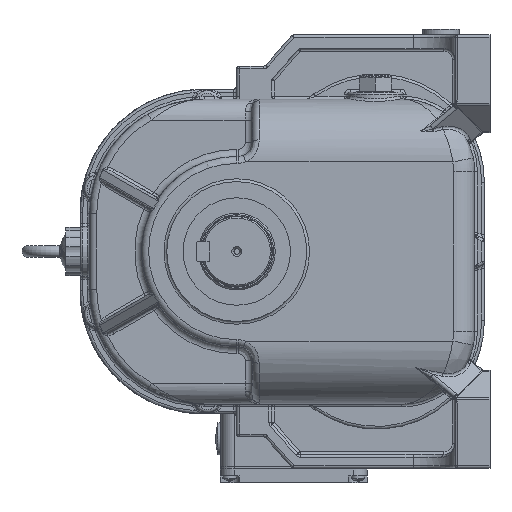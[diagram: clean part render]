
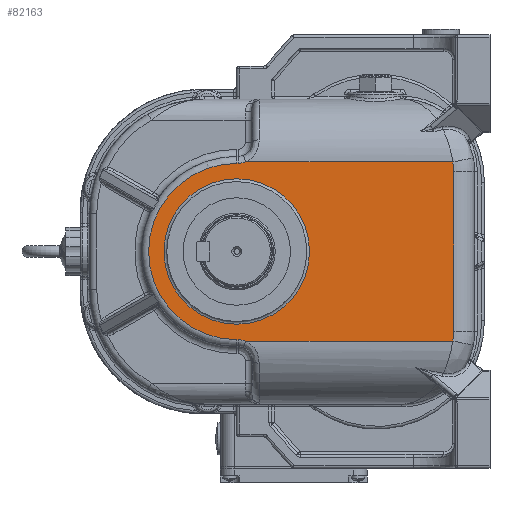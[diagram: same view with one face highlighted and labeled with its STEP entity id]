
A CAD part, left-side view. The second image highlights one B-rep face of the part: STEP entity #82163.
In plain terms, the highlighted planar face has unit normal (-1, 0, 0).
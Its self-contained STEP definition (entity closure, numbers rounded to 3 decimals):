
#7824=FACE_BOUND('',#17557,.T.);
#12537=FACE_OUTER_BOUND('',#17556,.T.);
#17556=EDGE_LOOP('',(#75019,#75020,#75021,#75022,#75023,#75024,#75025,#75026,
#75027,#75028));
#17557=EDGE_LOOP('',(#75029));
#22483=LINE('',#198708,#27319);
#22484=LINE('',#198712,#27320);
#22485=LINE('',#198716,#27321);
#22486=LINE('',#198720,#27322);
#22487=LINE('',#198723,#27323);
#27319=VECTOR('',#113121,10.);
#27320=VECTOR('',#113124,10.);
#27321=VECTOR('',#113127,10.);
#27322=VECTOR('',#113130,10.);
#27323=VECTOR('',#113133,10.);
#31334=CIRCLE('',#90939,52.);
#31335=CIRCLE('',#90941,37.);
#31336=CIRCLE('',#90942,37.);
#31337=CIRCLE('',#90943,15.);
#31338=CIRCLE('',#90944,63.);
#31339=CIRCLE('',#90945,15.);
#38792=VERTEX_POINT('',#198700);
#38793=VERTEX_POINT('',#198704);
#38794=VERTEX_POINT('',#198705);
#38795=VERTEX_POINT('',#198707);
#38796=VERTEX_POINT('',#198709);
#38797=VERTEX_POINT('',#198711);
#38798=VERTEX_POINT('',#198713);
#38799=VERTEX_POINT('',#198715);
#38800=VERTEX_POINT('',#198717);
#38801=VERTEX_POINT('',#198719);
#38802=VERTEX_POINT('',#198721);
#50921=EDGE_CURVE('',#38792,#38792,#31334,.T.);
#50922=EDGE_CURVE('',#38793,#38794,#31335,.T.);
#50923=EDGE_CURVE('',#38795,#38793,#22483,.T.);
#50924=EDGE_CURVE('',#38796,#38795,#31336,.T.);
#50925=EDGE_CURVE('',#38796,#38797,#22484,.T.);
#50926=EDGE_CURVE('',#38798,#38797,#31337,.T.);
#50927=EDGE_CURVE('',#38799,#38798,#22485,.T.);
#50928=EDGE_CURVE('',#38800,#38799,#31338,.T.);
#50929=EDGE_CURVE('',#38801,#38800,#22486,.T.);
#50930=EDGE_CURVE('',#38802,#38801,#31339,.T.);
#50931=EDGE_CURVE('',#38794,#38802,#22487,.T.);
#75019=ORIENTED_EDGE('',*,*,#50922,.F.);
#75020=ORIENTED_EDGE('',*,*,#50923,.F.);
#75021=ORIENTED_EDGE('',*,*,#50924,.F.);
#75022=ORIENTED_EDGE('',*,*,#50925,.T.);
#75023=ORIENTED_EDGE('',*,*,#50926,.F.);
#75024=ORIENTED_EDGE('',*,*,#50927,.F.);
#75025=ORIENTED_EDGE('',*,*,#50928,.F.);
#75026=ORIENTED_EDGE('',*,*,#50929,.F.);
#75027=ORIENTED_EDGE('',*,*,#50930,.F.);
#75028=ORIENTED_EDGE('',*,*,#50931,.F.);
#75029=ORIENTED_EDGE('',*,*,#50921,.F.);
#77416=PLANE('',#90940);
#82163=ADVANCED_FACE('',(#12537,#7824),#77416,.F.);
#90939=AXIS2_PLACEMENT_3D('',#198702,#113115,#113116);
#90940=AXIS2_PLACEMENT_3D('',#198703,#113117,#113118);
#90941=AXIS2_PLACEMENT_3D('',#198706,#113119,#113120);
#90942=AXIS2_PLACEMENT_3D('',#198710,#113122,#113123);
#90943=AXIS2_PLACEMENT_3D('',#198714,#113125,#113126);
#90944=AXIS2_PLACEMENT_3D('',#198718,#113128,#113129);
#90945=AXIS2_PLACEMENT_3D('',#198722,#113131,#113132);
#113115=DIRECTION('center_axis',(-1.,0.,0.));
#113116=DIRECTION('ref_axis',(0.,0.,-1.));
#113117=DIRECTION('center_axis',(1.,0.,0.));
#113118=DIRECTION('ref_axis',(0.,0.,-1.));
#113119=DIRECTION('center_axis',(1.,0.,0.));
#113120=DIRECTION('ref_axis',(0.,-0.998,-0.067));
#113121=DIRECTION('',(0.,0.,-1.));
#113122=DIRECTION('center_axis',(1.,0.,0.));
#113123=DIRECTION('ref_axis',(0.,-0.998,0.067));
#113124=DIRECTION('',(0.,1.,0.));
#113125=DIRECTION('center_axis',(-1.,0.,0.));
#113126=DIRECTION('ref_axis',(0.,0.,-1.));
#113127=DIRECTION('',(0.,-1.,0.));
#113128=DIRECTION('center_axis',(1.,0.,0.));
#113129=DIRECTION('ref_axis',(0.,1.,0.));
#113130=DIRECTION('',(0.,1.,0.));
#113131=DIRECTION('center_axis',(-1.,0.,0.));
#113132=DIRECTION('ref_axis',(0.,0.,1.));
#113133=DIRECTION('',(0.,1.,0.));
#198700=CARTESIAN_POINT('',(-157.,0.,52.));
#198702=CARTESIAN_POINT('Origin',(-157.,0.,0.));
#198703=CARTESIAN_POINT('Origin',(-157.,-40.6,0.));
#198704=CARTESIAN_POINT('',(-157.,-155.,-57.));
#198705=CARTESIAN_POINT('',(-157.,-154.332,-64.));
#198706=CARTESIAN_POINT('Origin',(-157.,-118.,-57.));
#198707=CARTESIAN_POINT('',(-157.,-155.,57.));
#198708=CARTESIAN_POINT('',(-157.,-155.,-28.5));
#198709=CARTESIAN_POINT('',(-157.,-154.332,64.));
#198710=CARTESIAN_POINT('Origin',(-157.,-118.,57.));
#198711=CARTESIAN_POINT('',(-157.,-6.385,64.));
#198712=CARTESIAN_POINT('',(-157.,105.,64.));
#198713=CARTESIAN_POINT('',(-157.,-1.,63.));
#198714=CARTESIAN_POINT('Origin',(-157.,-1.,78.));
#198715=CARTESIAN_POINT('',(-157.,0.,63.));
#198716=CARTESIAN_POINT('',(-157.,-25.8,63.));
#198717=CARTESIAN_POINT('',(-157.,0.,-63.));
#198718=CARTESIAN_POINT('Origin',(-157.,0.,0.));
#198719=CARTESIAN_POINT('',(-157.,-1.,-63.));
#198720=CARTESIAN_POINT('',(-157.,-20.3,-63.));
#198721=CARTESIAN_POINT('',(-157.,-6.385,-64.));
#198722=CARTESIAN_POINT('Origin',(-157.,-1.,-78.));
#198723=CARTESIAN_POINT('',(-157.,105.,-64.));
